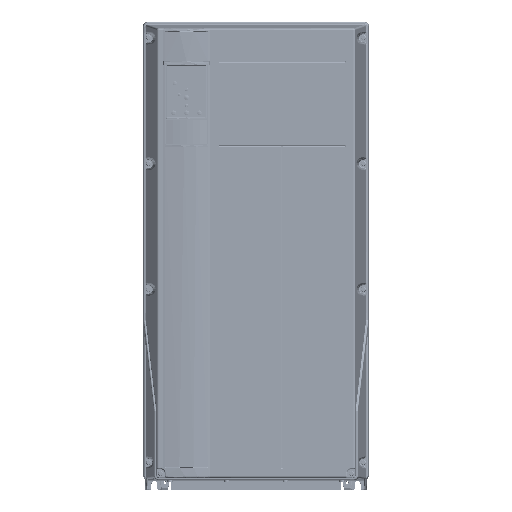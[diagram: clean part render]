
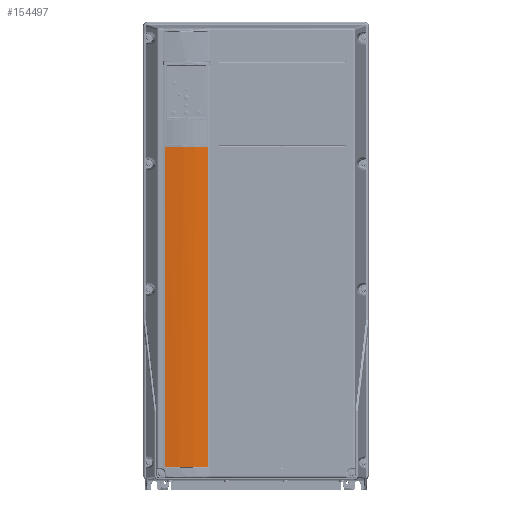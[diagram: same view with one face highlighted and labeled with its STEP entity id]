
A CAD part, top view. The second image highlights one B-rep face of the part: STEP entity #154497.
In plain terms, the highlighted cylindrical face has radius 279.65 mm (diameter 559.3 mm), a partial arc.
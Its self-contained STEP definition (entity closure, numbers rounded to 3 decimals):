
#3895 = ORIENTED_EDGE ( 'NONE', *, *, #7922, .T. ) ;
#6675 = EDGE_CURVE ( 'NONE', #201594, #10145, #200074, .T. ) ;
#7809 = EDGE_CURVE ( 'NONE', #10145, #103868, #153003, .T. ) ;
#7922 = EDGE_CURVE ( 'NONE', #103868, #114430, #330575, .T. ) ;
#10145 = VERTEX_POINT ( 'NONE', #263796 ) ;
#12134 = EDGE_CURVE ( 'NONE', #114430, #336666, #219710, .T. ) ;
#12730 = EDGE_CURVE ( 'NONE', #128108, #336666, #313096, .T. ) ;
#26422 = CARTESIAN_POINT ( 'NONE',  ( -149.262, 170.31, 169.718 ) ) ;
#41860 = DIRECTION ( 'NONE',  ( 0., 1., 0. ) ) ;
#53397 = ORIENTED_EDGE ( 'NONE', *, *, #6675, .T. ) ;
#57839 = CARTESIAN_POINT ( 'NONE',  ( -137.564, 170.312, 171.205 ) ) ;
#63519 = EDGE_CURVE ( 'NONE', #128108, #201594, #242925, .T. ) ;
#103868 = VERTEX_POINT ( 'NONE', #370399 ) ;
#114430 = VERTEX_POINT ( 'NONE', #394685 ) ;
#119650 = ORIENTED_EDGE ( 'NONE', *, *, #63519, .T. ) ;
#122022 = CARTESIAN_POINT ( 'NONE',  ( -102.194, 170.31, 171.949 ) ) ;
#128108 = VERTEX_POINT ( 'NONE', #399873 ) ;
#137045 = VECTOR ( 'NONE', #41860, 1000. ) ;
#148204 = CARTESIAN_POINT ( 'NONE',  ( -114., 371.54, -107.7 ) ) ;
#153003 = CIRCLE ( 'NONE', #348651, 279.65 ) ;
#153259 = CARTESIAN_POINT ( 'NONE',  ( -78.738, 170.31, 169.718 ) ) ;
#154497 = ADVANCED_FACE ( 'NONE', ( #358031 ), #192898, .T. ) ;
#170237 = DIRECTION ( 'NONE',  ( 0., -1., 0. ) ) ;
#181963 = CARTESIAN_POINT ( 'NONE',  ( -78.738, -354.93, 169.718 ) ) ;
#182072 = CARTESIAN_POINT ( 'NONE',  ( -78.738, -354.952, 169.718 ) ) ;
#182932 = CARTESIAN_POINT ( 'NONE',  ( -78.747, -354.971, 169.719 ) ) ;
#183280 = CARTESIAN_POINT ( 'NONE',  ( -78.824, -355.013, 169.729 ) ) ;
#183661 = EDGE_LOOP ( 'NONE', ( #119650, #53397, #270681, #3895, #283304, #375014 ) ) ;
#183749 = CARTESIAN_POINT ( 'NONE',  ( -78.801, -355.013, 169.726 ) ) ;
#185071 = CARTESIAN_POINT ( 'NONE',  ( -78.78, -355.004, 169.723 ) ) ;
#192898 = CYLINDRICAL_SURFACE ( 'NONE', #272564, 279.65 ) ;
#200074 = B_SPLINE_CURVE_WITH_KNOTS ( 'NONE', 3,
 ( #314155, #370586, #357691, #371536, #296839, #303593 ),
 .UNSPECIFIED., .F., .F.,
 ( 4, 2, 4 ),
 ( 0., 0.5, 1. ),
 .UNSPECIFIED. ) ;
#201594 = VERTEX_POINT ( 'NONE', #301200 ) ;
#210812 = DIRECTION ( 'NONE',  ( 0., 0., -1. ) ) ;
#214287 = DIRECTION ( 'NONE',  ( 0.126, 0., 0.992 ) ) ;
#214756 = DIRECTION ( 'NONE',  ( 0., 1., 0. ) ) ;
#215116 = CARTESIAN_POINT ( 'NONE',  ( -114., -355.013, -107.7 ) ) ;
#219710 = LINE ( 'NONE', #229969, #137045 ) ;
#229969 = CARTESIAN_POINT ( 'NONE',  ( -78.738, -92.211, 169.718 ) ) ;
#242925 = LINE ( 'NONE', #387246, #334969 ) ;
#263796 = CARTESIAN_POINT ( 'NONE',  ( -149.176, -355.013, 169.729 ) ) ;
#264804 = CARTESIAN_POINT ( 'NONE',  ( -78.738, 170.31, 169.718 ) ) ;
#270681 = ORIENTED_EDGE ( 'NONE', *, *, #7809, .T. ) ;
#271999 = DIRECTION ( 'NONE',  ( 0., -1., 0. ) ) ;
#272564 = AXIS2_PLACEMENT_3D ( 'NONE', #148204, #271999, #210812 ) ;
#283304 = ORIENTED_EDGE ( 'NONE', *, *, #12134, .T. ) ;
#296839 = CARTESIAN_POINT ( 'NONE',  ( -149.199, -355.013, 169.726 ) ) ;
#301200 = CARTESIAN_POINT ( 'NONE',  ( -149.262, -354.93, 169.718 ) ) ;
#303593 = CARTESIAN_POINT ( 'NONE',  ( -149.176, -355.013, 169.729 ) ) ;
#308148 = CARTESIAN_POINT ( 'NONE',  ( -125.806, 170.31, 171.949 ) ) ;
#313096 = B_SPLINE_CURVE_WITH_KNOTS ( 'NONE', 3,
 ( #26422, #57839, #308148, #122022, #339256, #153259 ),
 .UNSPECIFIED., .F., .F.,
 ( 4, 2, 4 ),
 ( 0., 0.5, 1. ),
 .UNSPECIFIED. ) ;
#314155 = CARTESIAN_POINT ( 'NONE',  ( -149.262, -354.93, 169.718 ) ) ;
#330575 = B_SPLINE_CURVE_WITH_KNOTS ( 'NONE', 3,
 ( #183280, #183749, #185071, #182932, #182072, #181963 ),
 .UNSPECIFIED., .F., .F.,
 ( 4, 2, 4 ),
 ( 0., 0.5, 1. ),
 .UNSPECIFIED. ) ;
#334969 = VECTOR ( 'NONE', #170237, 1000. ) ;
#336666 = VERTEX_POINT ( 'NONE', #264804 ) ;
#339256 = CARTESIAN_POINT ( 'NONE',  ( -90.436, 170.312, 171.205 ) ) ;
#348651 = AXIS2_PLACEMENT_3D ( 'NONE', #215116, #214756, #214287 ) ;
#357691 = CARTESIAN_POINT ( 'NONE',  ( -149.254, -354.97, 169.719 ) ) ;
#358031 = FACE_OUTER_BOUND ( 'NONE', #183661, .T. ) ;
#370399 = CARTESIAN_POINT ( 'NONE',  ( -78.824, -355.013, 169.729 ) ) ;
#370586 = CARTESIAN_POINT ( 'NONE',  ( -149.262, -354.951, 169.718 ) ) ;
#371536 = CARTESIAN_POINT ( 'NONE',  ( -149.219, -355.005, 169.723 ) ) ;
#375014 = ORIENTED_EDGE ( 'NONE', *, *, #12730, .F. ) ;
#387246 = CARTESIAN_POINT ( 'NONE',  ( -149.262, 371.54, 169.718 ) ) ;
#394685 = CARTESIAN_POINT ( 'NONE',  ( -78.738, -354.93, 169.718 ) ) ;
#399873 = CARTESIAN_POINT ( 'NONE',  ( -149.262, 170.31, 169.718 ) ) ;
